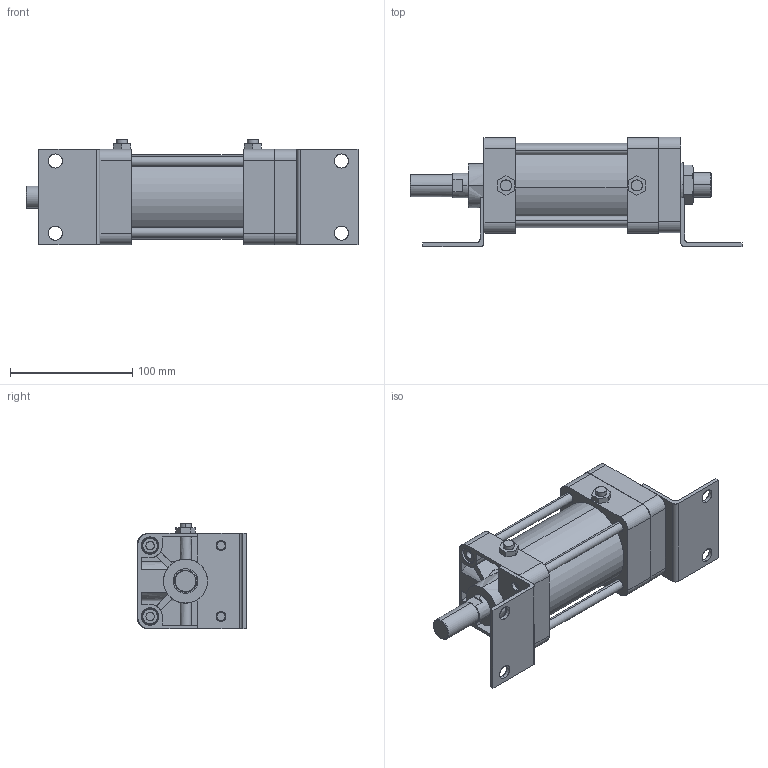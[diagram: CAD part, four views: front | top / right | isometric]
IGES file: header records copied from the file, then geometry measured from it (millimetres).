
Start section: SolidWorks IGES file using analytic representation for surfaces
Global section: file name: C:\Users\Toshiba\Desktop\KGA2-63#-50-L.IGS; native system: SolidWorks 2014; preprocessor: SolidWorks 2014; author: Toshiba; date: 160414.154122; units: millimetre
Bounding box: 271.5 x 89.5 x 86.3 mm (x, y, z)
Surface area: 168025.8 mm2 (no closed solid volume)
Topology: 0 solids, 0 shells, 394 faces, 6544 edges, 6540 vertices
Faces by surface type: bspline 208, revolution 186
